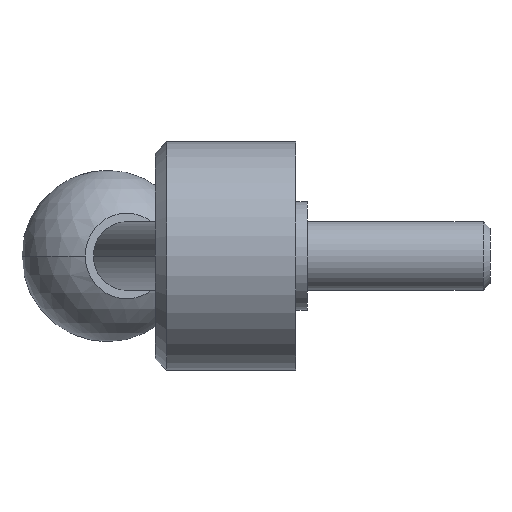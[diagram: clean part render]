
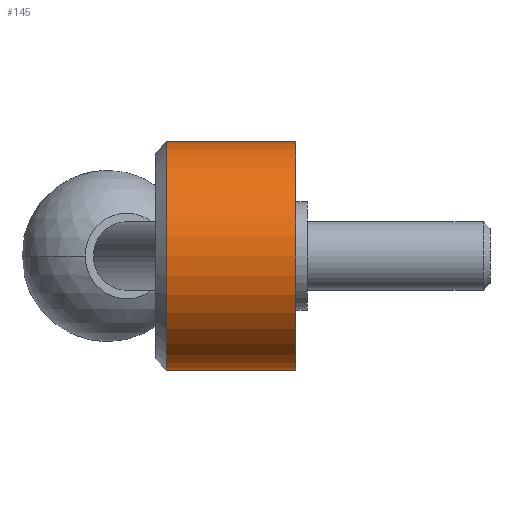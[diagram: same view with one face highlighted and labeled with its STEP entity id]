
A CAD part, left-side view. The second image highlights one B-rep face of the part: STEP entity #145.
In plain terms, the highlighted cylindrical face has radius 20 mm (diameter 40 mm), a partial arc.
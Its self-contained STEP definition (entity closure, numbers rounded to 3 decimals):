
#8 = EDGE_LOOP ( 'NONE', ( #809, #752, #787, #233 ) ) ;
#18 = DIRECTION ( 'NONE',  ( 0., 0., 1. ) ) ;
#57 = AXIS2_PLACEMENT_3D ( 'NONE', #449, #535, #667 ) ;
#75 = CARTESIAN_POINT ( 'NONE',  ( 0., 0., -20. ) ) ;
#87 = VECTOR ( 'NONE', #871, 1000. ) ;
#105 = VERTEX_POINT ( 'NONE', #176 ) ;
#107 = EDGE_CURVE ( 'NONE', #288, #583, #784, .T. ) ;
#114 = CARTESIAN_POINT ( 'NONE',  ( 0., 0., -20. ) ) ;
#125 = EDGE_CURVE ( 'NONE', #105, #288, #882, .T. ) ;
#145 = ADVANCED_FACE ( 'NONE', ( #413 ), #753, .T. ) ;
#176 = CARTESIAN_POINT ( 'NONE',  ( 0., 22.6, 20. ) ) ;
#193 = VERTEX_POINT ( 'NONE', #719 ) ;
#211 = EDGE_CURVE ( 'NONE', #193, #583, #317, .T. ) ;
#233 = ORIENTED_EDGE ( 'NONE', *, *, #107, .F. ) ;
#235 = AXIS2_PLACEMENT_3D ( 'NONE', #532, #601, #885 ) ;
#268 = CIRCLE ( 'NONE', #308, 20. ) ;
#271 = CARTESIAN_POINT ( 'NONE',  ( 0., 0., 20. ) ) ;
#288 = VERTEX_POINT ( 'NONE', #481 ) ;
#308 = AXIS2_PLACEMENT_3D ( 'NONE', #507, #511, #18 ) ;
#317 = LINE ( 'NONE', #114, #87 ) ;
#379 = EDGE_CURVE ( 'NONE', #105, #193, #268, .T. ) ;
#413 = FACE_OUTER_BOUND ( 'NONE', #8, .T. ) ;
#449 = CARTESIAN_POINT ( 'NONE',  ( 0., 0., 0. ) ) ;
#481 = CARTESIAN_POINT ( 'NONE',  ( 0., 0., 20. ) ) ;
#507 = CARTESIAN_POINT ( 'NONE',  ( 0., 22.6, 0. ) ) ;
#511 = DIRECTION ( 'NONE',  ( 0., -1., 0. ) ) ;
#532 = CARTESIAN_POINT ( 'NONE',  ( 0., 0., 0. ) ) ;
#535 = DIRECTION ( 'NONE',  ( 0., -1., 0. ) ) ;
#583 = VERTEX_POINT ( 'NONE', #75 ) ;
#601 = DIRECTION ( 'NONE',  ( 0., -1., 0. ) ) ;
#667 = DIRECTION ( 'NONE',  ( 0., 0., -1. ) ) ;
#719 = CARTESIAN_POINT ( 'NONE',  ( 0., 22.6, -20. ) ) ;
#752 = ORIENTED_EDGE ( 'NONE', *, *, #379, .T. ) ;
#753 = CYLINDRICAL_SURFACE ( 'NONE', #57, 20. ) ;
#784 = CIRCLE ( 'NONE', #235, 20. ) ;
#787 = ORIENTED_EDGE ( 'NONE', *, *, #211, .T. ) ;
#809 = ORIENTED_EDGE ( 'NONE', *, *, #125, .F. ) ;
#826 = DIRECTION ( 'NONE',  ( 0., -1., 0. ) ) ;
#843 = VECTOR ( 'NONE', #826, 1000. ) ;
#871 = DIRECTION ( 'NONE',  ( 0., -1., 0. ) ) ;
#882 = LINE ( 'NONE', #271, #843 ) ;
#885 = DIRECTION ( 'NONE',  ( 0., 0., -1. ) ) ;
